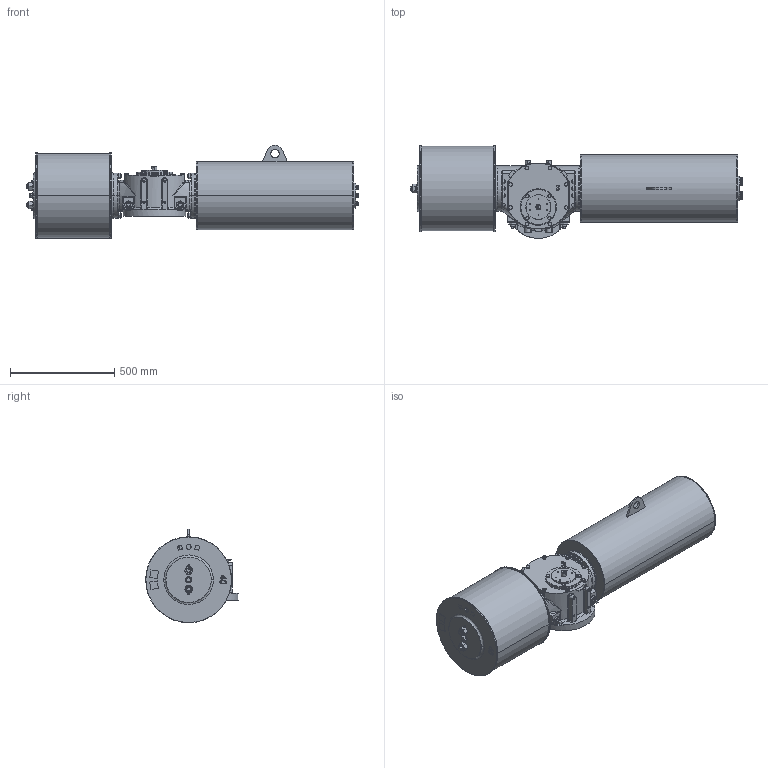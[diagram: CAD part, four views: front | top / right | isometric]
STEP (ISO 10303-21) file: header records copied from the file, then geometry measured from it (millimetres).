
FILE_DESCRIPTION (( 'STEP AP203' ), '1' );
FILE_NAME ('VTS3-400-SR-FC.STEP', '2022-05-04T02:18:11', ( '' ), ( '' ), 'SwSTEP 2.0', 'SolidWorks 2020', '' );
FILE_SCHEMA (( 'CONFIG_CONTROL_DESIGN' ));
Length unit declared in the file: millimetre
Products named in the file (1): VTS3-400-SR-FC
Bounding box: 1595.78 x 445.5 x 449 mm (x, y, z)
Volume: 130236633.8 mm3; surface area: 2441373.7 mm2
Topology: 4 solids, 5 shells, 1987 faces, 5090 edges, 3203 vertices
Faces by surface type: plane 803, cylinder 597, cone 444, bspline 143
Entity records: 75820 total; most frequent: CARTESIAN_POINT 29116, ORIENTED_EDGE 10050, DIRECTION 9474, EDGE_CURVE 5025, AXIS2_PLACEMENT_3D 3733, VERTEX_POINT 3203, EDGE_LOOP 2208, LINE 2008
